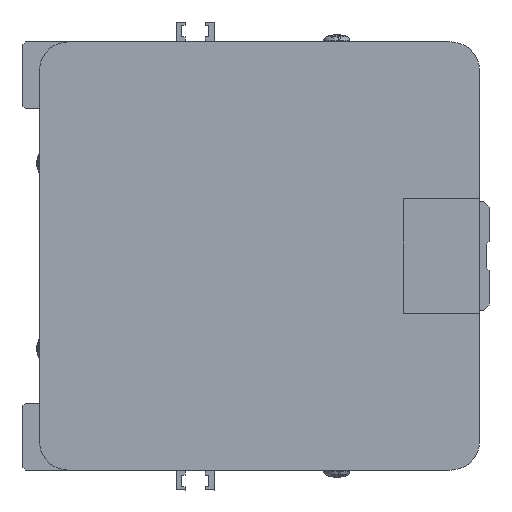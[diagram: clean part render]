
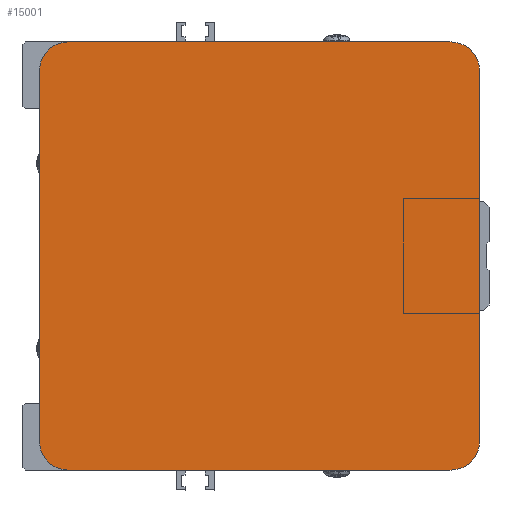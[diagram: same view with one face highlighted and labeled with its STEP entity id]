
A CAD part, left-side view. The second image highlights one B-rep face of the part: STEP entity #15001.
In plain terms, the highlighted planar face has unit normal (-1, 0, 0) as drawn and (0, 0, -1) by its records, which use the part's own axes.
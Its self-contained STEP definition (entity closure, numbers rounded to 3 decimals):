
#1177=CIRCLE('',#15989,6.);
#1179=CIRCLE('',#15994,6.);
#1180=CIRCLE('',#16000,6.);
#1181=CIRCLE('',#16002,6.);
#2078=FACE_OUTER_BOUND('',#2965,.T.);
#2965=EDGE_LOOP('',(#10483,#10484,#10485,#10486,#10487,#10488,#10489,#10490));
#4101=LINE('',#21486,#5346);
#4119=LINE('',#21525,#5364);
#4123=LINE('',#21537,#5368);
#4125=LINE('',#21544,#5370);
#5346=VECTOR('',#17561,78.);
#5364=VECTOR('',#17595,80.5);
#5368=VECTOR('',#17609,80.5);
#5370=VECTOR('',#17617,78.);
#6582=VERTEX_POINT('',#21480);
#6583=VERTEX_POINT('',#21484);
#6595=VERTEX_POINT('',#21522);
#6596=VERTEX_POINT('',#21524);
#6598=VERTEX_POINT('',#21533);
#6599=VERTEX_POINT('',#21535);
#6600=VERTEX_POINT('',#21539);
#6601=VERTEX_POINT('',#21543);
#8116=EDGE_CURVE('',#6583,#6582,#4101,.T.);
#8136=EDGE_CURVE('',#6595,#6596,#4119,.T.);
#8138=EDGE_CURVE('',#6596,#6583,#1177,.T.);
#8142=EDGE_CURVE('',#6599,#6598,#4123,.T.);
#8143=EDGE_CURVE('',#6598,#6600,#1179,.T.);
#8145=EDGE_CURVE('',#6600,#6601,#4125,.T.);
#8161=EDGE_CURVE('',#6601,#6595,#1180,.T.);
#8162=EDGE_CURVE('',#6582,#6599,#1181,.T.);
#10483=ORIENTED_EDGE('',*,*,#8143,.F.);
#10484=ORIENTED_EDGE('',*,*,#8142,.F.);
#10485=ORIENTED_EDGE('',*,*,#8162,.F.);
#10486=ORIENTED_EDGE('',*,*,#8116,.F.);
#10487=ORIENTED_EDGE('',*,*,#8138,.F.);
#10488=ORIENTED_EDGE('',*,*,#8136,.F.);
#10489=ORIENTED_EDGE('',*,*,#8161,.F.);
#10490=ORIENTED_EDGE('',*,*,#8145,.F.);
#14480=PLANE('',#16013);
#15001=ADVANCED_FACE('',(#2078),#14480,.T.);
#15989=AXIS2_PLACEMENT_3D('',#21528,#17599,#17600);
#15994=AXIS2_PLACEMENT_3D('',#21540,#17612,#17613);
#16000=AXIS2_PLACEMENT_3D('',#21572,#17641,#17642);
#16002=AXIS2_PLACEMENT_3D('',#21574,#17645,#17646);
#16013=AXIS2_PLACEMENT_3D('',#21593,#17672,#17673);
#17561=DIRECTION('',(1.,0.,0.));
#17595=DIRECTION('',(0.,-1.,0.));
#17599=DIRECTION('center_axis',(0.,0.,
1.));
#17600=DIRECTION('ref_axis',(-1.,0.,0.));
#17609=DIRECTION('',(0.,1.,0.));
#17612=DIRECTION('center_axis',(0.,0.,
1.));
#17613=DIRECTION('ref_axis',(1.,0.,0.));
#17617=DIRECTION('',(-1.,0.,0.));
#17641=DIRECTION('center_axis',(0.,0.,
1.));
#17642=DIRECTION('ref_axis',(0.,1.,0.));
#17645=DIRECTION('center_axis',(0.,0.,
1.));
#17646=DIRECTION('ref_axis',(0.,-1.,0.));
#17672=DIRECTION('center_axis',(0.,0.,
-1.));
#17673=DIRECTION('ref_axis',(0.545,-0.839,0.));
#21480=CARTESIAN_POINT('',(88.204,2.,-486.));
#21484=CARTESIAN_POINT('',(10.204,2.,-486.));
#21486=CARTESIAN_POINT('',(10.204,2.,-486.));
#21522=CARTESIAN_POINT('',(4.204,88.5,-486.));
#21524=CARTESIAN_POINT('',(4.204,8.,-486.));
#21525=CARTESIAN_POINT('',(4.204,88.5,-486.));
#21528=CARTESIAN_POINT('Origin',(10.204,8.,-486.));
#21533=CARTESIAN_POINT('',(94.204,88.5,-486.));
#21535=CARTESIAN_POINT('',(94.204,8.,-486.));
#21537=CARTESIAN_POINT('',(94.204,8.,-486.));
#21539=CARTESIAN_POINT('',(88.204,94.5,-486.));
#21540=CARTESIAN_POINT('Origin',(88.204,88.5,-486.));
#21543=CARTESIAN_POINT('',(10.204,94.5,-486.));
#21544=CARTESIAN_POINT('',(88.204,94.5,-486.));
#21572=CARTESIAN_POINT('Origin',(10.204,88.5,-486.));
#21574=CARTESIAN_POINT('Origin',(88.204,8.,-486.));
#21593=CARTESIAN_POINT('Origin',(49.204,26.,-486.));
